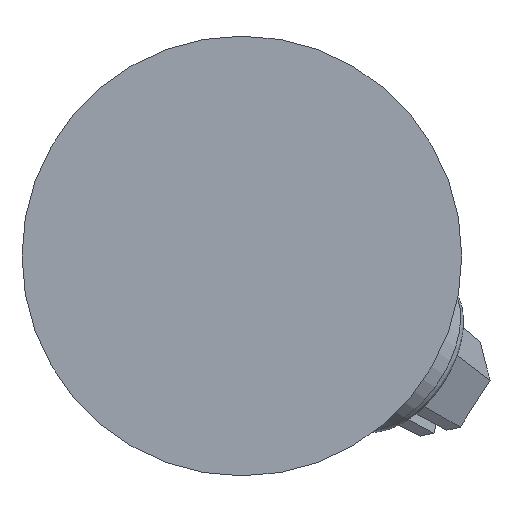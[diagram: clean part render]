
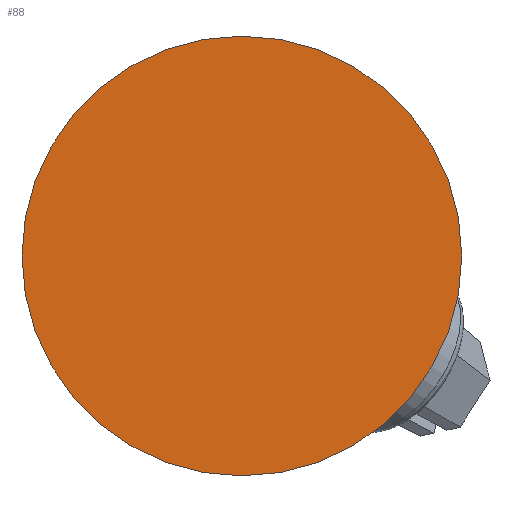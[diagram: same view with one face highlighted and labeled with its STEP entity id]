
A CAD part, front view. The second image highlights one B-rep face of the part: STEP entity #88.
In plain terms, the highlighted planar face has unit normal (0, -1, 0).
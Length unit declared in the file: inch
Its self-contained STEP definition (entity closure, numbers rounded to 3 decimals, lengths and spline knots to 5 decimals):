
#2 = CARTESIAN_POINT ( 'NONE',  ( -1.26304, 4.5, -3.50002 ) ) ;
#88 = ADVANCED_FACE ( 'NONE', ( #1628 ), #1164, .F. ) ;
#119 = EDGE_CURVE ( 'NONE', #563, #1580, #385, .T. ) ;
#131 = CARTESIAN_POINT ( 'NONE',  ( 0., 4.5, 0. ) ) ;
#172 = DIRECTION ( 'NONE',  ( 0., 1., 0. ) ) ;
#359 = CIRCLE ( 'NONE', #1857, 1.875 ) ;
#385 = CIRCLE ( 'NONE', #748, 1.875 ) ;
#399 = CARTESIAN_POINT ( 'NONE',  ( 0., 4.5, -1.875 ) ) ;
#441 = ORIENTED_EDGE ( 'NONE', *, *, #771, .T. ) ;
#526 = AXIS2_PLACEMENT_3D ( 'NONE', #2, #172, #1331 ) ;
#563 = VERTEX_POINT ( 'NONE', #1959 ) ;
#684 = DIRECTION ( 'NONE',  ( 0., 0., 1. ) ) ;
#748 = AXIS2_PLACEMENT_3D ( 'NONE', #2011, #1838, #684 ) ;
#771 = EDGE_CURVE ( 'NONE', #1580, #563, #359, .T. ) ;
#1164 = PLANE ( 'NONE',  #526 ) ;
#1331 = DIRECTION ( 'NONE',  ( 0., 0., 1. ) ) ;
#1417 = DIRECTION ( 'NONE',  ( 0., 0., 1. ) ) ;
#1580 = VERTEX_POINT ( 'NONE', #399 ) ;
#1628 = FACE_OUTER_BOUND ( 'NONE', #2137, .T. ) ;
#1838 = DIRECTION ( 'NONE',  ( 0., -1., 0. ) ) ;
#1847 = ORIENTED_EDGE ( 'NONE', *, *, #119, .T. ) ;
#1857 = AXIS2_PLACEMENT_3D ( 'NONE', #131, #1946, #1417 ) ;
#1946 = DIRECTION ( 'NONE',  ( 0., -1., 0. ) ) ;
#1959 = CARTESIAN_POINT ( 'NONE',  ( 0., 4.5, 1.875 ) ) ;
#2011 = CARTESIAN_POINT ( 'NONE',  ( 0., 4.5, 0. ) ) ;
#2137 = EDGE_LOOP ( 'NONE', ( #441, #1847 ) ) ;
